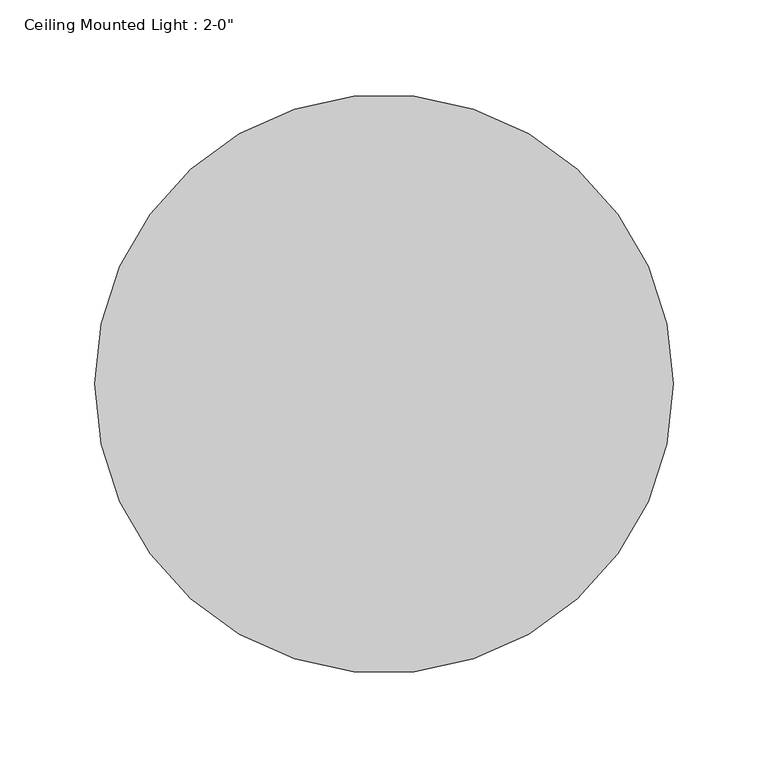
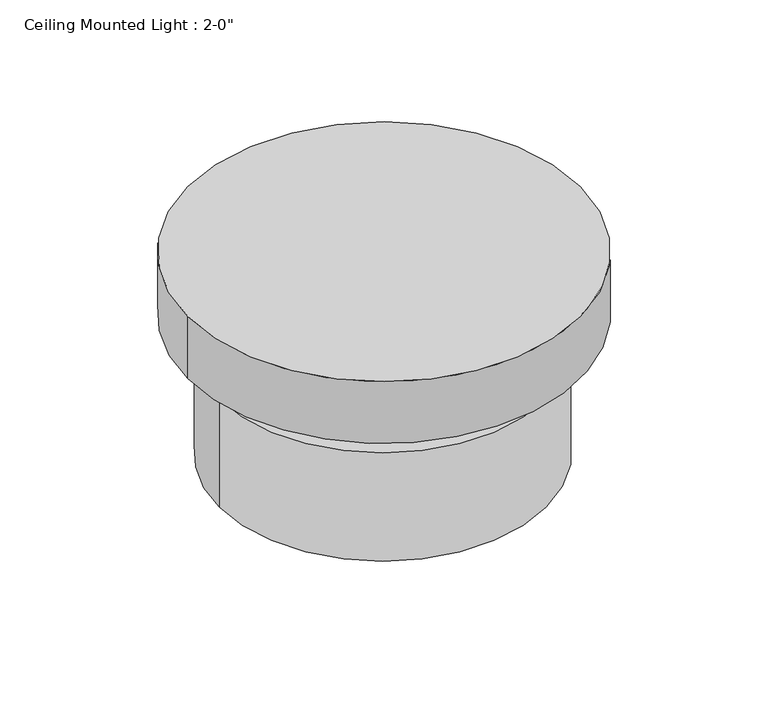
"""IFC4 building model written with IfcOpenShell, lengths in millimetres: light fixture geometry."""

from ifc_helpers import new_model, si_unit, point, frame, origin, origin_2d, place, context, project, spatial, polyline, circle_curve, trimmed, segment, composite_curve, outline, extrude, source, transform, mapped, element, save
from ifc_brep_helpers import plane_surface, cylinder_surface, revolved_surface, advanced_brep


def light_fixture_03aafe97(model_context):
    return source(origin(), model_context, "Body", "SolidModel", [
        advanced_brep(
        [(126.2493917, 0.3110986, 2413.0), (-127.7506083, 0.3110986, 2413.0), (-76.9506083, 0.3110986, 2413.0), (75.4493917, 0.3110986, 2413.0), (126.2493917, 0.3110986, 2324.1), (-127.7506083, 0.3110986, 2324.1), (-0.7506083, 0.3110986, 2324.1), (123.0743917, 0.3110986, 2327.275), (-124.5756083, 0.3110986, 2327.275), (-0.7506083, 0.3110986, 2327.275), (123.0743917, 0.3110986, 2409.825), (-124.5756083, 0.3110986, 2409.825), (72.2743917, 0.3110986, 2409.825), (-73.7756083, 0.3110986, 2409.825), (72.2743917, 0.3110986, 2438.4), (-73.7756083, 0.3110986, 2438.4), (75.4493917, 0.3110986, 2438.4), (-76.9506083, 0.3110986, 2438.4)],
        [
            (0, 1, circle_curve(frame((-0.7506083, 0.3110986, 2413.0), z_axis=(0.0, 0.0, 1.0), x_axis=(-1.0, 0.0, 0.0)), 127.0)),
            (1, 2),
            (2, 3, circle_curve(frame((-0.7506083, 0.3110986, 2413.0), z_axis=(0.0, 0.0, -1.0), x_axis=(-1.0, 0.0, 0.0)), 76.2)),
            (3, 0),
            (1, 0, circle_curve(frame((-0.7506083, 0.3110986, 2413.0), z_axis=(0.0, 0.0, 1.0), x_axis=(-1.0, 0.0, 0.0)), 127.0)),
            (3, 2, circle_curve(frame((-0.7506083, 0.3110986, 2413.0), z_axis=(0.0, 0.0, -1.0), x_axis=(-1.0, 0.0, 0.0)), 76.2)),
            (4, 5, circle_curve(frame((-0.7506083, 0.3110986, 2324.1), z_axis=(0.0, 0.0, 1.0), x_axis=(-1.0, 0.0, 0.0)), 127.0)),
            (5, 1),
            (0, 4),
            (5, 4, circle_curve(frame((-0.7506083, 0.3110986, 2324.1), z_axis=(0.0, 0.0, 1.0), x_axis=(-1.0, 0.0, 0.0)), 127.0)),
            (6, 5),
            (4, 6),
            (7, 8, circle_curve(frame((-0.7506083, 0.3110986, 2327.275), z_axis=(0.0, 0.0, 1.0), x_axis=(-1.0, 0.0, 0.0)), 123.825)),
            (8, 9),
            (9, 7),
            (8, 7, circle_curve(frame((-0.7506083, 0.3110986, 2327.275), z_axis=(0.0, 0.0, 1.0), x_axis=(-1.0, 0.0, 0.0)), 123.825)),
            (10, 11, circle_curve(frame((-0.7506083, 0.3110986, 2409.825), z_axis=(0.0, 0.0, 1.0), x_axis=(-1.0, 0.0, 0.0)), 123.825)),
            (11, 8),
            (7, 10),
            (11, 10, circle_curve(frame((-0.7506083, 0.3110986, 2409.825), z_axis=(0.0, 0.0, 1.0), x_axis=(-1.0, 0.0, 0.0)), 123.825)),
            (12, 13, circle_curve(frame((-0.7506083, 0.3110986, 2409.825), z_axis=(0.0, 0.0, 1.0), x_axis=(-1.0, 0.0, 0.0)), 73.025)),
            (13, 11),
            (10, 12),
            (13, 12, circle_curve(frame((-0.7506083, 0.3110986, 2409.825), z_axis=(0.0, 0.0, 1.0), x_axis=(-1.0, 0.0, 0.0)), 73.025)),
            (14, 15, circle_curve(frame((-0.7506083, 0.3110986, 2438.4), z_axis=(0.0, 0.0, 1.0), x_axis=(-1.0, 0.0, 0.0)), 73.025)),
            (15, 13),
            (12, 14),
            (15, 14, circle_curve(frame((-0.7506083, 0.3110986, 2438.4), z_axis=(0.0, 0.0, 1.0), x_axis=(-1.0, 0.0, 0.0)), 73.025)),
            (16, 17, circle_curve(frame((-0.7506083, 0.3110986, 2438.4), z_axis=(0.0, 0.0, 1.0), x_axis=(-1.0, 0.0, 0.0)), 76.2)),
            (17, 15),
            (14, 16),
            (17, 16, circle_curve(frame((-0.7506083, 0.3110986, 2438.4), z_axis=(0.0, 0.0, 1.0), x_axis=(-1.0, 0.0, 0.0)), 76.2)),
            (2, 17),
            (16, 3),
        ],
        [
            plane_surface(frame((-0.7506083, 0.3110986, 2413.0), z_axis=(0.0, 0.0, 1.0), x_axis=(-1.0, 0.0, 0.0))),
            cylinder_surface(frame((-0.7506083, 0.3110986, 2463.8), z_axis=(0.0, 0.0, -1.0), x_axis=(-1.0, 0.0, 0.0)), 127.0),
            plane_surface(frame((-0.7506083, 0.3110986, 2324.1), z_axis=(0.0, 0.0, -1.0), x_axis=(-1.0, 0.0, 0.0))),
            plane_surface(frame((-0.7506083, 0.3110986, 2327.275), z_axis=(0.0, 0.0, 1.0), x_axis=(-1.0, 0.0, 0.0))),
            revolved_surface(polyline([(-124.5756083, 0.3110986, 2327.275), (-124.5756083, 0.3110986, 2409.825)]), (-0.7506083, 0.3110986, 2463.8), (0.0, 0.0, -1.0)),
            plane_surface(frame((-0.7506083, 0.3110986, 2409.825), z_axis=(0.0, 0.0, -1.0), x_axis=(-1.0, 0.0, 0.0))),
            revolved_surface(polyline([(-73.7756083, 0.3110986, 2409.825), (-73.7756083, 0.3110986, 2438.4)]), (-0.7506083, 0.3110986, 2463.8), (0.0, 0.0, -1.0)),
            plane_surface(frame((-0.7506083, 0.3110986, 2438.4), z_axis=(0.0, 0.0, 1.0), x_axis=(-1.0, 0.0, 0.0))),
            cylinder_surface(frame((-0.7506083, 0.3110986, 2463.8), z_axis=(0.0, 0.0, -1.0), x_axis=(-1.0, 0.0, 0.0)), 76.2),
        ],
        [
            (0, [[1, 2, 3, 4]]),
            (0, [[5, -4, 6, -2]]),
            (1, [[7, 8, -1, 9]]),
            (1, [[10, -9, -5, -8]]),
            (2, [[11, -7, 12]]),
            (2, [[-12, -10, -11]]),
            (3, [[13, 14, 15]]),
            (3, [[16, -15, -14]]),
            (4, [[17, 18, -13, 19]]),
            (4, [[20, -19, -16, -18]]),
            (5, [[21, 22, -17, 23]]),
            (5, [[24, -23, -20, -22]]),
            (6, [[25, 26, -21, 27]]),
            (6, [[28, -27, -24, -26]]),
            (7, [[29, 30, -25, 31]]),
            (7, [[32, -31, -28, -30]]),
            (8, [[-3, 33, -29, 34]]),
            (8, [[-6, -34, -32, -33]]),
        ],
    ),
        extrude(outline(composite_curve([segment(trimmed(circle_curve(origin_2d(), 152.4), [point((-152.4, 0.0))], [point((152.4, 0.0))], False, "CARTESIAN"), True, "CONTINUOUS"), segment(trimmed(circle_curve(origin_2d(), 152.4), [point((152.4, 0.0))], [point((-152.4, 0.0))], False, "CARTESIAN"), True, "CONTINUOUS")], self_intersect=False)), frame((0.0, 0.0, 2438.4), z_axis=(0.0, 0.0, 1.0), x_axis=(1.0, 0.0, 0.0)), (0.0, 0.0, 1.0), 50.8),
    ])


if __name__ == "__main__":
    model = new_model("IFC4")
    model_context = context("Model", 3, world=origin())
    ifc_project = project(units=[si_unit("LENGTHUNIT", "METRE", prefix="MILLI")], contexts=[model_context])
    site = spatial("IfcSite", under=ifc_project)
    building = spatial("IfcBuilding", under=site)
    placement = place(None, origin())
    light_fixture_shape = light_fixture_03aafe97(model_context)
    element("IfcLightFixture", 1, ObjectType="Ceiling Mounted Light : 2-0\"", at=placement, inside=building, context=model_context, shape_type="MappedRepresentation", body=[
        mapped(light_fixture_shape, transform((0.0, 0.0, 0.0), x_axis=(1.0, 0.0, 0.0), y_axis=(0.0, 1.0, 0.0), z_axis=(0.0, 0.0, 1.0))),
    ])
    save(model, "model.ifc")
